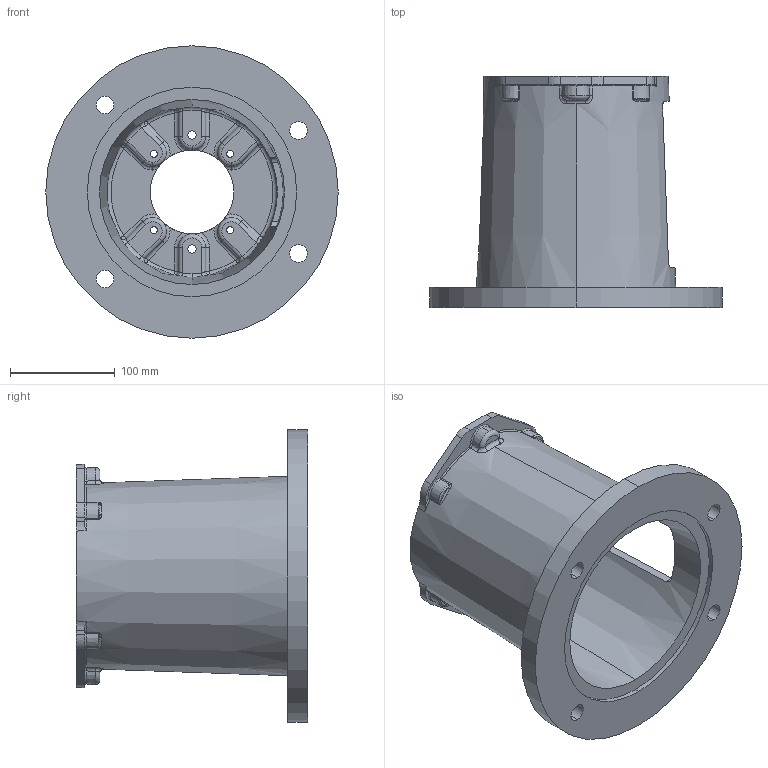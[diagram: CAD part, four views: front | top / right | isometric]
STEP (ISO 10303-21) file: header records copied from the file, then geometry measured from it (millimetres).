
FILE_DESCRIPTION (( 'STEP AP203' ), '1' );
FILE_NAME ('E7878680M.STEP', '2014-11-04T15:57:11', ( '' ), ( '' ), 'SwSTEP 2.0', 'SolidWorks 2014', '' );
FILE_SCHEMA (( 'CONFIG_CONTROL_DESIGN' ));
Length unit declared in the file: inch
Products named in the file (1): E7878680M
Bounding box: 279.4 x 220.73 x 279.4 mm (x, y, z)
Volume: 1651481.4 mm3; surface area: 352993.5 mm2
Topology: 1 solids, 1 shells, 339 faces, 853 edges, 506 vertices
Faces by surface type: torus 97, cylinder 86, bspline 64, plane 50, sphere 24, cone 18
Entity records: 13419 total; most frequent: CARTESIAN_POINT 5529, DIRECTION 1686, ORIENTED_EDGE 1682, EDGE_CURVE 841, AXIS2_PLACEMENT_3D 763, VERTEX_POINT 506, CIRCLE 487, EDGE_LOOP 365
